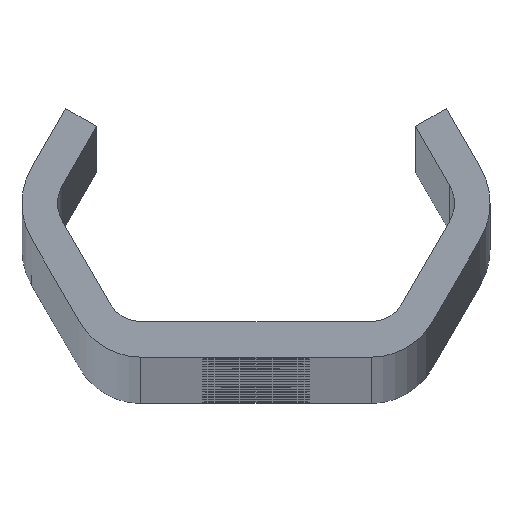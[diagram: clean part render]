
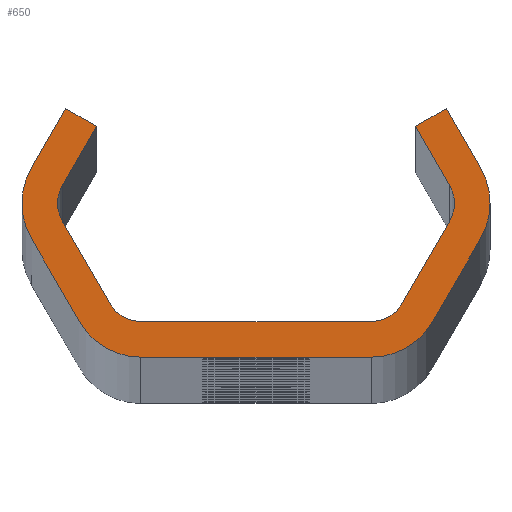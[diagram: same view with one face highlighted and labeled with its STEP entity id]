
A CAD part, top view. The second image highlights one B-rep face of the part: STEP entity #650.
In plain terms, the highlighted planar face has unit normal (0, 0, 1).
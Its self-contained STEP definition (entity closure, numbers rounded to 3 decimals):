
#650=ADVANCED_FACE('NONE',(#1800),#1801,.F.);
#1800=FACE_OUTER_BOUND('',#5792,.T.);
#1801=PLANE('',#5793);
#5792=EDGE_LOOP('',(#11720,#11721,#11722,#11723,#11724,#11725,#11726,#11727,#11728,#11729,#11730,#11731,#11732,#11733,#11734,#11735,#11736,#11737,#11738,#11739,#11740,#11741,#11742,#11743));
#5793=AXIS2_PLACEMENT_3D('',#11744,#11745,#11746);
#11720=ORIENTED_EDGE('',*,*,#15661,.T.);
#11721=ORIENTED_EDGE('',*,*,#15700,.T.);
#11722=ORIENTED_EDGE('',*,*,#15328,.T.);
#11723=ORIENTED_EDGE('',*,*,#15663,.T.);
#11724=ORIENTED_EDGE('',*,*,#15701,.T.);
#11725=ORIENTED_EDGE('',*,*,#15667,.T.);
#11726=ORIENTED_EDGE('',*,*,#15702,.T.);
#11727=ORIENTED_EDGE('',*,*,#15335,.T.);
#11728=ORIENTED_EDGE('',*,*,#15703,.T.);
#11729=ORIENTED_EDGE('',*,*,#15041,.T.);
#11730=ORIENTED_EDGE('',*,*,#15338,.T.);
#11731=ORIENTED_EDGE('',*,*,#15344,.T.);
#11732=ORIENTED_EDGE('',*,*,#15347,.T.);
#11733=ORIENTED_EDGE('',*,*,#15325,.T.);
#11734=ORIENTED_EDGE('',*,*,#15704,.T.);
#11735=ORIENTED_EDGE('',*,*,#15349,.T.);
#11736=ORIENTED_EDGE('',*,*,#15705,.T.);
#11737=ORIENTED_EDGE('',*,*,#15356,.T.);
#11738=ORIENTED_EDGE('',*,*,#15706,.T.);
#11739=ORIENTED_EDGE('',*,*,#15648,.T.);
#11740=ORIENTED_EDGE('',*,*,#15707,.T.);
#11741=ORIENTED_EDGE('',*,*,#15036,.T.);
#11742=ORIENTED_EDGE('',*,*,#15651,.T.);
#11743=ORIENTED_EDGE('',*,*,#15657,.T.);
#11744=CARTESIAN_POINT('',(0.0,0.0,2240.0));
#11745=DIRECTION('',(0.0,0.0,-1.0));
#11746=DIRECTION('',(0.0,-1.0,0.0));
#15036=EDGE_CURVE('NONE',#16764,#16768,#16770,.T.);
#15041=EDGE_CURVE('NONE',#16773,#16777,#16779,.T.);
#15325=EDGE_CURVE('NONE',#17290,#17288,#17291,.T.);
#15328=EDGE_CURVE('NONE',#17294,#17295,#17296,.T.);
#15335=EDGE_CURVE('NONE',#17308,#17306,#17309,.T.);
#15338=EDGE_CURVE('NONE',#16777,#17312,#17313,.T.);
#15344=EDGE_CURVE('NONE',#17312,#17320,#17322,.T.);
#15347=EDGE_CURVE('NONE',#17320,#17290,#17325,.T.);
#15349=EDGE_CURVE('NONE',#17327,#17328,#17329,.T.);
#15356=EDGE_CURVE('NONE',#17341,#17339,#17342,.T.);
#15648=EDGE_CURVE('NONE',#17882,#17880,#17883,.T.);
#15651=EDGE_CURVE('NONE',#16768,#17886,#17887,.T.);
#15657=EDGE_CURVE('NONE',#17886,#17894,#17896,.T.);
#15661=EDGE_CURVE('NONE',#17894,#17900,#17902,.T.);
#15663=EDGE_CURVE('NONE',#17295,#17904,#17905,.T.);
#15667=EDGE_CURVE('NONE',#17910,#17911,#17912,.T.);
#15700=EDGE_CURVE('NONE',#17900,#17294,#17947,.T.);
#15701=EDGE_CURVE('NONE',#17904,#17910,#17948,.T.);
#15702=EDGE_CURVE('NONE',#17911,#17308,#17949,.T.);
#15703=EDGE_CURVE('NONE',#17306,#16773,#17950,.T.);
#15704=EDGE_CURVE('NONE',#17288,#17327,#17951,.T.);
#15705=EDGE_CURVE('NONE',#17328,#17341,#17952,.T.);
#15706=EDGE_CURVE('NONE',#17339,#17882,#17953,.T.);
#15707=EDGE_CURVE('NONE',#17880,#16764,#17954,.T.);
#16764=VERTEX_POINT('',#19326);
#16768=VERTEX_POINT('NONE',#19331);
#16770=CIRCLE('',#19334,3.0);
#16773=VERTEX_POINT('',#19337);
#16777=VERTEX_POINT('NONE',#19342);
#16779=CIRCLE('',#19345,6.0);
#17288=VERTEX_POINT('NONE',#22360);
#17290=VERTEX_POINT('NONE',#22363);
#17291=CIRCLE('',#22364,3.0);
#17294=VERTEX_POINT('NONE',#22368);
#17295=VERTEX_POINT('NONE',#22369);
#17296=CIRCLE('',#22370,6.0);
#17306=VERTEX_POINT('NONE',#22383);
#17308=VERTEX_POINT('NONE',#22386);
#17309=LINE('',#22387,#22388);
#17312=VERTEX_POINT('NONE',#22392);
#17313=LINE('',#22393,#22394);
#17320=VERTEX_POINT('NONE',#22404);
#17322=LINE('',#22407,#22408);
#17325=LINE('',#22412,#22413);
#17327=VERTEX_POINT('NONE',#22415);
#17328=VERTEX_POINT('NONE',#22416);
#17329=LINE('',#22417,#22418);
#17339=VERTEX_POINT('NONE',#22432);
#17341=VERTEX_POINT('NONE',#22435);
#17342=LINE('',#22436,#22437);
#17880=VERTEX_POINT('NONE',#24377);
#17882=VERTEX_POINT('NONE',#24380);
#17883=LINE('',#24381,#24382);
#17886=VERTEX_POINT('NONE',#24386);
#17887=LINE('',#24387,#24388);
#17894=VERTEX_POINT('NONE',#24398);
#17896=LINE('',#24401,#24402);
#17900=VERTEX_POINT('NONE',#24407);
#17902=LINE('',#24410,#24411);
#17904=VERTEX_POINT('NONE',#24413);
#17905=LINE('',#24414,#24415);
#17910=VERTEX_POINT('NONE',#24422);
#17911=VERTEX_POINT('NONE',#24423);
#17912=LINE('',#24424,#24425);
#17947=CIRCLE('',#24463,6.0);
#17948=CIRCLE('',#24464,6.0);
#17949=CIRCLE('',#24465,6.0);
#17950=CIRCLE('',#24466,6.0);
#17951=CIRCLE('',#24467,3.0);
#17952=CIRCLE('',#24468,3.0);
#17953=CIRCLE('',#24469,3.0);
#17954=CIRCLE('',#24470,3.0);
#19326=CARTESIAN_POINT('',(-16.764,0.,2240.0));
#19331=CARTESIAN_POINT('',(-16.362,1.5,2240.0));
#19334=AXIS2_PLACEMENT_3D('',#28995,#28996,#28997);
#19337=CARTESIAN_POINT('',(19.764,0.,2240.0));
#19342=CARTESIAN_POINT('',(18.96,3.,2240.0));
#19345=AXIS2_PLACEMENT_3D('',#29003,#29004,#29005);
#22360=CARTESIAN_POINT('',(16.764,0.,2240.0));
#22363=CARTESIAN_POINT('',(16.362,1.5,2240.0));
#22364=AXIS2_PLACEMENT_3D('',#29290,#29291,#29292);
#22368=CARTESIAN_POINT('',(-19.764,0.,2240.0));
#22369=CARTESIAN_POINT('',(-18.96,-3.,2240.0));
#22370=AXIS2_PLACEMENT_3D('',#29294,#29295,#29296);
#22383=CARTESIAN_POINT('',(18.96,-3.,2240.0));
#22386=CARTESIAN_POINT('',(14.919,-10.,2240.0));
#22387=CARTESIAN_POINT('',(20.692,0.,2240.0));
#22388=VECTOR('',#29304,1000.0);
#22392=CARTESIAN_POINT('',(16.074,8.,2240.0));
#22393=CARTESIAN_POINT('',(16.074,8.,2240.0));
#22394=VECTOR('',#29306,1000.0);
#22404=CARTESIAN_POINT('',(13.475,6.5,2240.0));
#22407=CARTESIAN_POINT('',(13.475,6.5,2240.0));
#22408=VECTOR('',#29311,1000.0);
#22412=CARTESIAN_POINT('',(17.228,0.,2240.0));
#22413=VECTOR('',#29313,1000.0);
#22415=CARTESIAN_POINT('',(16.362,-1.5,2240.0));
#22416=CARTESIAN_POINT('',(12.321,-8.5,2240.0));
#22417=CARTESIAN_POINT('',(11.455,-10.0,2240.0));
#22418=VECTOR('',#29314,1000.0);
#22432=CARTESIAN_POINT('',(-9.723,-10.0,2240.0));
#22435=CARTESIAN_POINT('',(9.723,-10.0,2240.0));
#22436=CARTESIAN_POINT('',(-11.455,-10.0,2240.0));
#22437=VECTOR('',#29320,1000.0);
#24377=CARTESIAN_POINT('',(-16.362,-1.5,2240.0));
#24380=CARTESIAN_POINT('',(-12.321,-8.5,2240.0));
#24381=CARTESIAN_POINT('',(-17.228,0.,2240.0));
#24382=VECTOR('',#29639,1000.0);
#24386=CARTESIAN_POINT('',(-13.475,6.5,2240.0));
#24387=CARTESIAN_POINT('',(-13.475,6.5,2240.0));
#24388=VECTOR('',#29641,1000.0);
#24398=CARTESIAN_POINT('',(-16.074,8.,2240.0));
#24401=CARTESIAN_POINT('',(-13.475,6.5,2240.0));
#24402=VECTOR('',#29646,1000.0);
#24407=CARTESIAN_POINT('',(-18.96,3.,2240.0));
#24410=CARTESIAN_POINT('',(-16.074,8.,2240.0));
#24411=VECTOR('',#29649,1000.0);
#24413=CARTESIAN_POINT('',(-14.919,-10.,2240.0));
#24414=CARTESIAN_POINT('',(-20.692,0.,2240.0));
#24415=VECTOR('',#29650,1000.0);
#24422=CARTESIAN_POINT('',(-9.723,-13.0,2240.0));
#24423=CARTESIAN_POINT('',(9.723,-13.0,2240.0));
#24424=CARTESIAN_POINT('',(-13.187,-13.0,2240.0));
#24425=VECTOR('',#29653,1000.0);
#24463=AXIS2_PLACEMENT_3D('',#29741,#29742,#29743);
#24464=AXIS2_PLACEMENT_3D('',#29744,#29745,#29746);
#24465=AXIS2_PLACEMENT_3D('',#29747,#29748,#29749);
#24466=AXIS2_PLACEMENT_3D('',#29750,#29751,#29752);
#24467=AXIS2_PLACEMENT_3D('',#29753,#29754,#29755);
#24468=AXIS2_PLACEMENT_3D('',#29756,#29757,#29758);
#24469=AXIS2_PLACEMENT_3D('',#29759,#29760,#29761);
#24470=AXIS2_PLACEMENT_3D('',#29762,#29763,#29764);
#28995=CARTESIAN_POINT('',(-13.764,0.,2240.0));
#28996=DIRECTION('',(0.0,0.0,-1.0));
#28997=DIRECTION('',(-1.0,0.0,0.0));
#29003=CARTESIAN_POINT('',(13.764,0.,2240.0));
#29004=DIRECTION('',(0.0,0.0,1.0));
#29005=DIRECTION('',(-1.0,0.0,0.0));
#29290=CARTESIAN_POINT('',(13.764,0.,2240.0));
#29291=DIRECTION('',(0.0,0.0,-1.0));
#29292=DIRECTION('',(-1.0,0.0,0.0));
#29294=CARTESIAN_POINT('',(-13.764,0.,2240.0));
#29295=DIRECTION('',(0.0,0.0,1.0));
#29296=DIRECTION('',(-1.0,0.0,0.0));
#29304=DIRECTION('',(0.5,0.866,-0.0));
#29306=DIRECTION('',(-0.5,0.866,-0.0));
#29311=DIRECTION('',(-0.866,-0.5,-0.0));
#29313=DIRECTION('',(0.5,-0.866,-0.0));
#29314=DIRECTION('',(-0.5,-0.866,-0.0));
#29320=DIRECTION('',(-1.0,0.,-0.0));
#29639=DIRECTION('',(-0.5,0.866,-0.0));
#29641=DIRECTION('',(0.5,0.866,-0.0));
#29646=DIRECTION('',(-0.866,0.5,0.0));
#29649=DIRECTION('',(-0.5,-0.866,0.0));
#29650=DIRECTION('',(0.5,-0.866,0.0));
#29653=DIRECTION('',(1.0,0.0,0.0));
#29741=CARTESIAN_POINT('',(-13.764,0.,2240.0));
#29742=DIRECTION('',(0.0,0.0,1.0));
#29743=DIRECTION('',(-1.0,0.,0.0));
#29744=CARTESIAN_POINT('',(-9.723,-7.0,2240.0));
#29745=DIRECTION('',(0.0,0.0,1.0));
#29746=DIRECTION('',(-1.0,0.0,0.0));
#29747=CARTESIAN_POINT('',(9.723,-7.0,2240.0));
#29748=DIRECTION('',(0.0,0.0,1.0));
#29749=DIRECTION('',(-1.0,0.,0.0));
#29750=CARTESIAN_POINT('',(13.764,0.,2240.0));
#29751=DIRECTION('',(0.0,0.0,1.0));
#29752=DIRECTION('',(-1.0,0.0,0.0));
#29753=CARTESIAN_POINT('',(13.764,0.,2240.0));
#29754=DIRECTION('',(0.0,0.0,-1.0));
#29755=DIRECTION('',(-1.0,0.0,0.0));
#29756=CARTESIAN_POINT('',(9.723,-7.0,2240.0));
#29757=DIRECTION('',(0.0,0.0,-1.0));
#29758=DIRECTION('',(-1.0,0.0,0.0));
#29759=CARTESIAN_POINT('',(-9.723,-7.0,2240.0));
#29760=DIRECTION('',(0.0,0.0,-1.0));
#29761=DIRECTION('',(-1.0,0.0,0.0));
#29762=CARTESIAN_POINT('',(-13.764,0.,2240.0));
#29763=DIRECTION('',(0.0,0.0,-1.0));
#29764=DIRECTION('',(-1.0,0.0,0.0));
